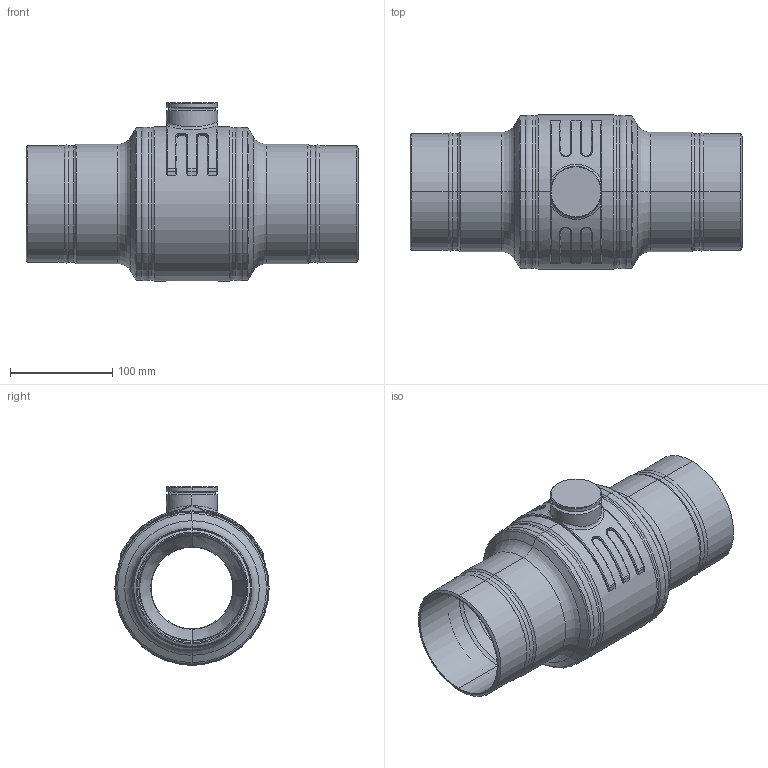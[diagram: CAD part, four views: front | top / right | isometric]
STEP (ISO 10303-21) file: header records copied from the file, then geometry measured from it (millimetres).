
FILE_DESCRIPTION((''),'2;1');
FILE_NAME('KHMO-BH-R-ISKT-100R080P040','2025-02-11T17:04:35',('jeitlers'),('KLINGER'),'CREO PARAMETRIC BY PTC INC, 2023014','CREO PARAMETRIC BY PTC INC, 2023014','');
FILE_SCHEMA(('CONFIG_CONTROL_DESIGN'));
Length unit declared in the file: millimetre
Products named in the file (1): KHMO-BH-R-ISKT-100R080P040
Bounding box: 325 x 151 x 174.5 mm (x, y, z)
Volume: 1442845.4 mm3; surface area: 413079.2 mm2
Topology: 1 solids, 1 shells, 364 faces, 845 edges, 488 vertices
Faces by surface type: cylinder 118, torus 96, cone 66, plane 56, bspline 24, sphere 4
Entity records: 17446 total; most frequent: CARTESIAN_POINT 9058, DIRECTION 1935, ORIENTED_EDGE 1674, AXIS2_PLACEMENT_3D 840, EDGE_CURVE 837, CIRCLE 500, VERTEX_POINT 488, EDGE_LOOP 385
